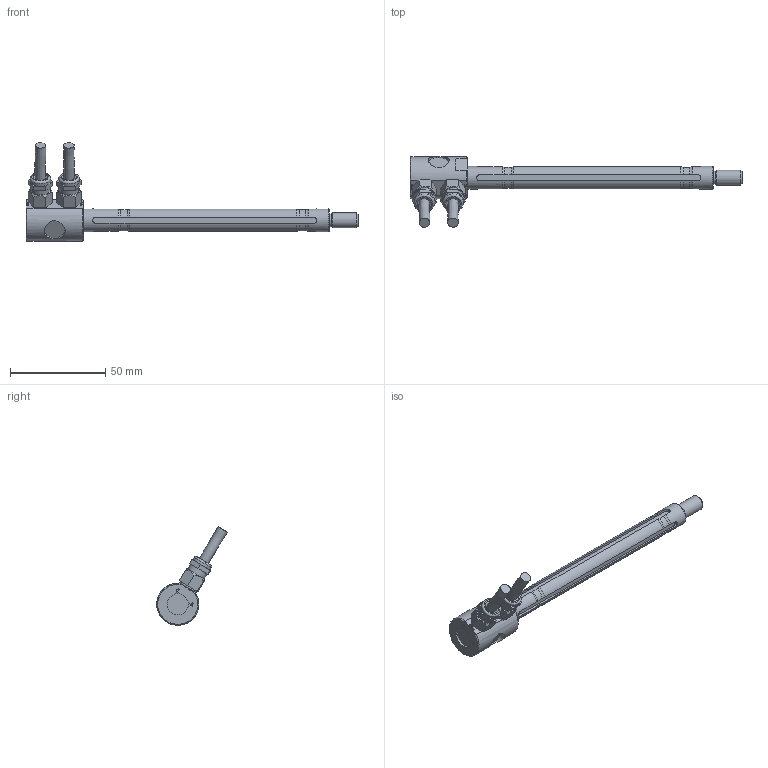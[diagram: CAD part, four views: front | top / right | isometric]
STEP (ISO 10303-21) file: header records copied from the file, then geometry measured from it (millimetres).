
FILE_DESCRIPTION(/* description */ ('Alibre Inc.'),/* implementation_level */ '2;1');
FILE_NAME(/* name */ 'export-930CB8BC-056A-4AFF-99BC-81B84C7CE1EB',/* time_stamp */ '2022-05-02T08:14:37+02:00',/* author */ (''),/* organization */ (''),/* preprocessor_version */ 'ST-DEVELOPER v17',/* originating_system */ 'Alibre',/* authorisation */ '');
FILE_SCHEMA (('CONFIG_CONTROL_DESIGN'));
Length unit declared in the file: millimetre
Bounding box: 173.9 x 36.91 x 51.59 mm (x, y, z)
Volume: 26140.1 mm3; surface area: 13570.4 mm2
Topology: 7 solids, 7 shells, 390 faces, 1018 edges, 674 vertices
Faces by surface type: plane 211, bspline 94, cylinder 48, torus 25, cone 12
Full cylindrical faces by diameter (mm): 4 x1, 5.5 x2, 6.8 x1, 7.5 x2, 8 x3, 10 x2, 10.8 x2, 11 x3, 12 x2
Entity records: 11769 total; most frequent: CARTESIAN_POINT 3434, ORIENTED_EDGE 1840, DIRECTION 1018, EDGE_CURVE 920, VERTEX_POINT 627, VECTOR 573, LINE 573, FACE_BOUND 419
